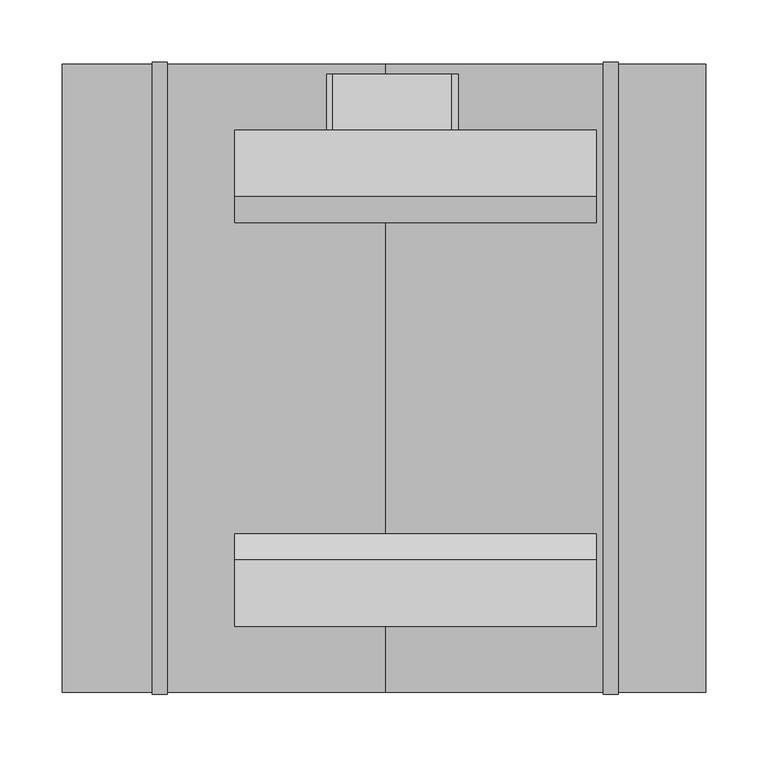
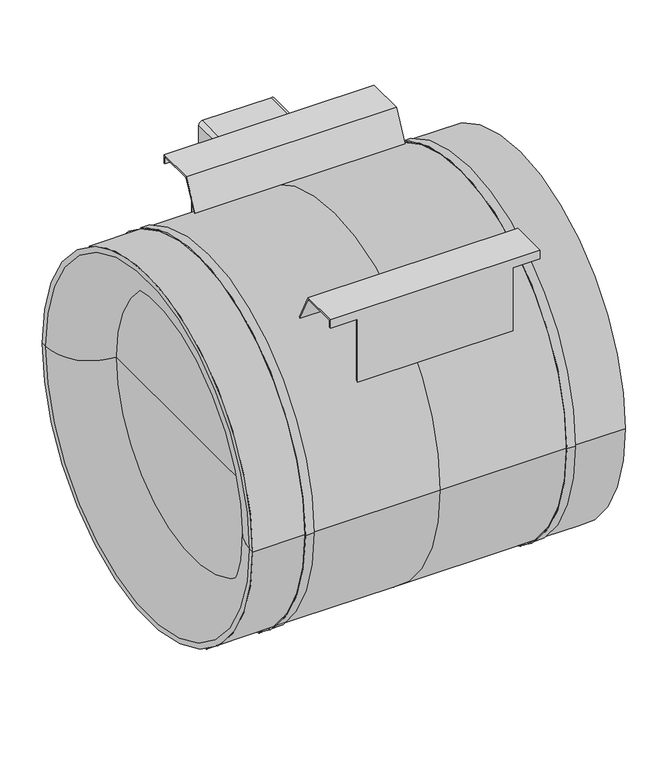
"""IFC4 building model written with IfcOpenShell, lengths in millimetres: unitary equipment geometry, VE-Wentylator-ParaForma-Harmann-JETTEC-Nawiewny : 500/6700S."""

from ifc_helpers import new_model, si_unit, point, frame, frame_2d, origin, place, context, project, spatial, polyline, circle_curve, ellipse_curve, trimmed, segment, composite_curve, outline, extrude, source, transform, mapped, element, save
from ifc_brep_helpers import plane_surface, cylinder_surface, revolved_surface, advanced_brep


def unitary_equipment_c92f0478(model_context):
    return source(origin(), model_context, "Body", "SolidModel", [
        extrude(outline(composite_curve([segment(trimmed(circle_curve(frame_2d((168.3, 53.4)), 5.0), [point((163.3, 53.4))], [point((168.3, 58.4))], False, "CARTESIAN"), True, "CONTINUOUS"), segment(polyline([(168.3, 58.4), (249.3, 58.4)]), True, "CONTINUOUS"), segment(trimmed(circle_curve(frame_2d((249.3, 53.4)), 5.0), [point((249.3, 58.4))], [point((254.3, 53.4))], False, "CARTESIAN"), True, "CONTINUOUS"), segment(polyline([(254.3, 53.4), (254.3, -42.0)]), True, "CONTINUOUS"), segment(trimmed(circle_curve(frame_2d((249.3, -42.0)), 5.0), [point((254.3, -42.0))], [point((249.3, -47.0))], False, "CARTESIAN"), True, "CONTINUOUS"), segment(polyline([(249.3, -47.0), (168.3, -47.0)]), True, "CONTINUOUS"), segment(trimmed(circle_curve(frame_2d((168.3, -42.0)), 5.0), [point((168.3, -47.0))], [point((163.3, -42.0))], False, "CARTESIAN"), True, "CONTINUOUS"), segment(polyline([(163.3, -42.0), (163.3, 53.4)]), True, "CONTINUOUS")], self_intersect=False)), frame((0.0, 198.9, 0.0), z_axis=(0.0, 1.0, 0.0), x_axis=(0.0, 0.0, 1.0)), (0.0, 0.0, 1.0), 45.0),
        advanced_brep(
        [(169.3, 198.9, 246.9), (169.3, 198.9, 258.9), (169.3, 145.6, 258.9), (169.3, 124.9125411, 218.6899165), (169.3, 126.647231, 217.6899202), (169.3, 146.8202037, 256.9), (169.3, 196.9, 256.9), (169.3, 196.9, 246.9), (131.8, 196.9, 246.9), (131.8, 198.9, 246.9), (-120.7, 196.9, 256.9), (-120.7, 196.9, 246.9), (-83.2, 196.9, 246.9), (-83.2, 196.9, 157.0312469), (131.8, 196.9, 157.0312469), (-120.7, 146.8202037, 256.9), (131.8, 126.647231, 217.6899202), (-83.2, 126.647231, 217.6899202), (-120.7, 126.647231, 217.6899202), (-120.7, 145.6, 258.9), (-120.7, 124.9125411, 218.6899165), (-83.2, 124.9125411, 218.6899165), (131.8, 124.9125411, 218.6899165), (-120.7, 198.9, 258.9), (131.8, 198.9, 154.4901696), (-83.2, 198.9, 154.4901696), (-83.2, 198.9, 246.9), (-120.7, 198.9, 246.9)],
        [
            (0, 1),
            (1, 2),
            (2, 3),
            (3, 4, circle_curve(frame((169.3, 0.0, 0.0), z_axis=(-1.0, 0.0, 0.0), x_axis=(0.0, 1.0, 0.0)), 251.85)),
            (4, 5),
            (5, 6),
            (6, 7),
            (7, 0),
            (7, 8),
            (8, 9),
            (9, 0),
            (6, 10),
            (10, 11),
            (11, 12),
            (12, 13),
            (13, 14),
            (14, 8),
            (5, 15),
            (15, 10),
            (4, 16),
            (16, 17),
            (17, 18),
            (18, 15),
            (19, 20),
            (20, 21),
            (21, 22),
            (22, 3),
            (2, 19),
            (1, 23),
            (23, 19),
            (9, 24),
            (24, 25),
            (25, 26),
            (26, 27),
            (27, 23),
            (20, 18, circle_curve(frame((-120.7, 0.0, 0.0), z_axis=(-1.0, 0.0, 0.0), x_axis=(0.0, 1.0, 0.0)), 251.85)),
            (17, 21, circle_curve(frame((-83.2, 0.0, 0.0), z_axis=(1.0, 0.0, 0.0), x_axis=(0.0, 1.0, 0.0)), 251.85)),
            (22, 16, circle_curve(frame((131.8, 0.0, 0.0), z_axis=(-1.0, 0.0, 0.0), x_axis=(0.0, 1.0, 0.0)), 251.85)),
            (25, 13, circle_curve(frame((-83.2, 0.0, 0.0), z_axis=(1.0, 0.0, 0.0), x_axis=(0.0, 1.0, 0.0)), 251.85)),
            (12, 26),
            (14, 24, circle_curve(frame((131.8, 0.0, 0.0), z_axis=(-1.0, 0.0, 0.0), x_axis=(0.0, 1.0, 0.0)), 251.85)),
            (27, 11),
        ],
        [
            plane_surface(frame((169.3, 0.0, 0.0), z_axis=(1.0, 0.0, 0.0), x_axis=(0.0, 0.0, 1.0))),
            plane_surface(frame((131.8, 198.9, 246.9), z_axis=(0.0, 0.0, -1.0), x_axis=(1.0, 0.0, 0.0))),
            plane_surface(frame((131.8, 196.9, 246.9), z_axis=(0.0, -1.0, 0.0), x_axis=(1.0, 0.0, 0.0))),
            plane_surface(frame((131.8, 196.9, 256.9), z_axis=(0.0, 0.0, -1.0), x_axis=(1.0, 0.0, 0.0))),
            plane_surface(frame((131.8, 146.8202037, 256.9), z_axis=(0.0, 0.8892159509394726, -0.45748769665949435), x_axis=(1.0, 0.0, 0.0))),
            plane_surface(frame((131.8, 12.4, 0.0), z_axis=(0.0, -0.8892159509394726, 0.4574876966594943), x_axis=(1.0, 0.0, 0.0))),
            plane_surface(frame((131.8, 145.6, 258.9), z_axis=(0.0, 0.0, 1.0), x_axis=(1.0, 0.0, 0.0))),
            plane_surface(frame((131.8, 198.9, 258.9), z_axis=(0.0, 1.0, 0.0), x_axis=(1.0, 0.0, 0.0))),
            revolved_surface(polyline([(-120.7, 251.85, 0.0), (-83.2, 251.85, 0.0)]), (-120.7, 0.0, 0.0), (-1.0, 0.0, 0.0)),
            revolved_surface(polyline([(131.8, 251.85, 0.0), (169.3, 251.85, 0.0)]), (131.8, 0.0, 0.0), (-1.0, 0.0, 0.0)),
            plane_surface(frame((-83.2, 0.0, 0.0), z_axis=(-1.0, 0.0, 0.0), x_axis=(0.0, 0.0, 1.0))),
            plane_surface(frame((131.8, 0.0, 0.0), z_axis=(1.0, 0.0, 0.0), x_axis=(0.0, 0.0, 1.0))),
            revolved_surface(polyline([(-83.2, 251.85, 0.0), (131.8, 251.85, 0.0)]), (-83.2, 0.0, 0.0), (-1.0, 0.0, 0.0)),
            plane_surface(frame((-120.7, 0.0, 0.0), z_axis=(-1.0, 0.0, 0.0), x_axis=(0.0, 0.0, 1.0))),
            plane_surface(frame((-120.7, 198.9, 246.9), z_axis=(0.0, 0.0, -1.0), x_axis=(1.0, 0.0, 0.0))),
        ],
        [
            (0, [[1, 2, 3, 4, 5, 6, 7, 8]]),
            (1, [[-8, 9, 10, 11]]),
            (2, [[-7, 12, 13, 14, 15, 16, 17, -9]]),
            (3, [[-12, -6, 18, 19]]),
            (4, [[-18, -5, 20, 21, 22, 23]]),
            (5, [[24, 25, 26, 27, -3, 28]]),
            (6, [[-28, -2, 29, 30]]),
            (7, [[-29, -1, -11, 31, 32, 33, 34, 35]]),
            (8, [[36, -22, 37, -25]]),
            (9, [[-4, -27, 38, -20]]),
            (10, [[39, -15, 40, -33]]),
            (11, [[41, -31, -10, -17]]),
            (12, [[-21, -38, -26, -37]]),
            (12, [[-39, -32, -41, -16]]),
            (13, [[42, -13, -19, -23, -36, -24, -30, -35]]),
            (14, [[-42, -34, -40, -14]]),
        ],
    ),
        advanced_brep(
        [(169.3, -145.6, 258.9), (169.3, -198.9, 258.9), (169.3, -198.9, 246.9), (169.3, -196.9, 246.9), (169.3, -196.9, 256.9), (169.3, -146.8202037, 256.9), (169.3, -126.647231, 217.6899202), (169.3, -124.9125411, 218.6899165), (-120.7, -146.8202037, 256.9), (-120.7, -126.647231, 217.6899202), (-83.2, -126.647231, 217.6899202), (131.8, -126.647231, 217.6899202), (-120.7, -196.9, 256.9), (131.8, -196.9, 246.9), (131.8, -196.9, 157.0312469), (-83.2, -196.9, 157.0312469), (-83.2, -196.9, 246.9), (-120.7, -196.9, 246.9), (131.8, -198.9, 246.9), (-120.7, -198.9, 258.9), (-120.7, -198.9, 246.9), (-83.2, -198.9, 246.9), (-83.2, -198.9, 154.4901696), (131.8, -198.9, 154.4901696), (-120.7, -145.6, 258.9), (131.8, -124.9125411, 218.6899165), (-83.2, -124.9125411, 218.6899165), (-120.7, -124.9125411, 218.6899165)],
        [
            (0, 1),
            (1, 2),
            (2, 3),
            (3, 4),
            (4, 5),
            (5, 6),
            (6, 7, circle_curve(frame((169.3, 0.0, 0.0), z_axis=(-1.0, 0.0, 0.0), x_axis=(0.0, 1.0, 0.0)), 251.85)),
            (7, 0),
            (8, 9),
            (9, 10),
            (10, 11),
            (11, 6),
            (5, 8),
            (4, 12),
            (12, 8),
            (3, 13),
            (13, 14),
            (14, 15),
            (15, 16),
            (16, 17),
            (17, 12),
            (2, 18),
            (18, 13),
            (1, 19),
            (19, 20),
            (20, 21),
            (21, 22),
            (22, 23),
            (23, 18),
            (0, 24),
            (24, 19),
            (7, 25),
            (25, 26),
            (26, 27),
            (27, 24),
            (9, 27, circle_curve(frame((-120.7, 0.0, 0.0), z_axis=(-1.0, 0.0, 0.0), x_axis=(0.0, 1.0, 0.0)), 251.85)),
            (26, 10, circle_curve(frame((-83.2, 0.0, 0.0), z_axis=(1.0, 0.0, 0.0), x_axis=(0.0, 1.0, 0.0)), 251.85)),
            (11, 25, circle_curve(frame((131.8, 0.0, 0.0), z_axis=(-1.0, 0.0, 0.0), x_axis=(0.0, 1.0, 0.0)), 251.85)),
            (15, 22, circle_curve(frame((-83.2, 0.0, 0.0), z_axis=(1.0, 0.0, 0.0), x_axis=(0.0, 1.0, 0.0)), 251.85)),
            (21, 16),
            (23, 14, circle_curve(frame((131.8, 0.0, 0.0), z_axis=(-1.0, 0.0, 0.0), x_axis=(0.0, 1.0, 0.0)), 251.85)),
            (17, 20),
        ],
        [
            plane_surface(frame((169.3, 0.0, 0.0), z_axis=(1.0, 0.0, 0.0), x_axis=(0.0, 0.0, 1.0))),
            plane_surface(frame((131.8, -13.6202037, -2.0), z_axis=(0.0, -0.8892159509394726, -0.45748769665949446), x_axis=(1.0, 0.0, 0.0))),
            plane_surface(frame((131.8, -146.8202037, 256.9), z_axis=(0.0, 0.0, -1.0), x_axis=(1.0, 0.0, 0.0))),
            plane_surface(frame((131.8, -196.9, 256.9), z_axis=(0.0, 1.0, 0.0), x_axis=(1.0, 0.0, 0.0))),
            plane_surface(frame((131.8, -196.9, 246.9), z_axis=(0.0, 0.0, -1.0), x_axis=(1.0, 0.0, 0.0))),
            plane_surface(frame((131.8, -198.9, 246.9), z_axis=(0.0, -1.0, 0.0), x_axis=(1.0, 0.0, 0.0))),
            plane_surface(frame((131.8, -198.9, 258.9), z_axis=(0.0, 0.0, 1.0), x_axis=(1.0, 0.0, 0.0))),
            plane_surface(frame((131.8, -145.6, 258.9), z_axis=(0.0, 0.8892159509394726, 0.45748769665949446), x_axis=(1.0, 0.0, 0.0))),
            revolved_surface(polyline([(-120.7, 251.85, 0.0), (-83.2, 251.85, 0.0)]), (-120.7, 0.0, 0.0), (-1.0, 0.0, 0.0)),
            revolved_surface(polyline([(131.8, 251.85, 0.0), (169.3, 251.85, 0.0)]), (131.8, 0.0, 0.0), (-1.0, 0.0, 0.0)),
            plane_surface(frame((-83.2, 0.0, 0.0), z_axis=(-1.0, 0.0, 0.0), x_axis=(0.0, 0.0, 1.0))),
            plane_surface(frame((131.8, 0.0, 0.0), z_axis=(1.0, 0.0, 0.0), x_axis=(0.0, 0.0, 1.0))),
            revolved_surface(polyline([(-83.2, 251.85, 0.0), (131.8, 251.85, 0.0)]), (-83.2, 0.0, 0.0), (-1.0, 0.0, 0.0)),
            plane_surface(frame((-120.7, 0.0, 0.0), z_axis=(-1.0, 0.0, 0.0), x_axis=(0.0, 0.0, 1.0))),
            plane_surface(frame((-120.7, -196.9, 246.9), z_axis=(0.0, 0.0, -1.0), x_axis=(1.0, 0.0, 0.0))),
        ],
        [
            (0, [[1, 2, 3, 4, 5, 6, 7, 8]]),
            (1, [[9, 10, 11, 12, -6, 13]]),
            (2, [[-13, -5, 14, 15]]),
            (3, [[-14, -4, 16, 17, 18, 19, 20, 21]]),
            (4, [[-3, 22, 23, -16]]),
            (5, [[-2, 24, 25, 26, 27, 28, 29, -22]]),
            (6, [[-24, -1, 30, 31]]),
            (7, [[-30, -8, 32, 33, 34, 35]]),
            (8, [[36, -34, 37, -10]]),
            (9, [[-7, -12, 38, -32]]),
            (10, [[39, -27, 40, -19]]),
            (11, [[41, -17, -23, -29]]),
            (12, [[-11, -37, -33, -38]]),
            (12, [[-39, -18, -41, -28]]),
            (13, [[-15, -21, 42, -25, -31, -35, -36, -9]]),
            (14, [[-42, -20, -40, -26]]),
        ],
    ),
        advanced_brep(
        [(-174.8, 251.9, 0.0), (0.0, 251.9, 0.0), (0.0, -251.9, 0.0), (-174.8, -251.9, 0.0), (-258.8, -251.9, 0.0), (-258.8, 251.9, 0.0), (-186.8, 251.9, 0.0), (-186.8, -251.9, 0.0), (-258.8, -244.5, 0.0), (-258.8, 244.5, 0.0), (-196.8, -182.5, 0.0), (-196.8, 182.5, 0.0), (-196.8, 0.0, 0.0), (256.8, -251.9, 0.0), (256.8, 251.9, 0.0), (256.8, 0.0, 0.0), (186.8, -251.9, 0.0), (186.8, 251.9, 0.0), (174.8, 251.9, 0.0), (174.8, -251.9, 0.0), (-174.8, -253.4, 0.0), (-174.8, 253.4, 0.0), (-186.8, -253.4, 0.0), (-186.8, 253.4, 0.0), (186.8, -253.4, 0.0), (186.8, 253.4, 0.0), (174.8, -253.4, 0.0), (174.8, 253.4, 0.0)],
        [
            (0, 1),
            (1, 2, circle_curve(frame((0.0, 0.0, 0.0), z_axis=(-1.0, 0.0, 0.0), x_axis=(0.0, 1.0, 0.0)), 251.9)),
            (2, 3),
            (3, 0, circle_curve(frame((-174.8, 0.0, 0.0), z_axis=(1.0, 0.0, 0.0), x_axis=(0.0, 1.0, 0.0)), 251.9)),
            (0, 3, circle_curve(frame((-174.8, 0.0, 0.0), z_axis=(1.0, 0.0, 0.0), x_axis=(0.0, 1.0, 0.0)), 251.9)),
            (2, 1, circle_curve(frame((0.0, 0.0, 0.0), z_axis=(-1.0, 0.0, 0.0), x_axis=(0.0, 1.0, 0.0)), 251.9)),
            (4, 5, circle_curve(frame((-258.8, 0.0, 0.0), z_axis=(1.0, 0.0, 0.0), x_axis=(0.0, 1.0, 0.0)), 251.9)),
            (5, 6),
            (6, 7, circle_curve(frame((-186.8, 0.0, 0.0), z_axis=(-1.0, 0.0, 0.0), x_axis=(0.0, 1.0, 0.0)), 251.9)),
            (7, 4),
            (5, 4, circle_curve(frame((-258.8, 0.0, 0.0), z_axis=(1.0, 0.0, 0.0), x_axis=(0.0, 1.0, 0.0)), 251.9)),
            (7, 6, circle_curve(frame((-186.8, 0.0, 0.0), z_axis=(-1.0, 0.0, 0.0), x_axis=(0.0, 1.0, 0.0)), 251.9)),
            (4, 8),
            (8, 9, circle_curve(frame((-258.8, 0.0, 0.0), z_axis=(1.0, 0.0, 0.0), x_axis=(0.0, 1.0, 0.0)), 244.5)),
            (9, 5),
            (9, 8, circle_curve(frame((-258.8, 0.0, 0.0), z_axis=(1.0, 0.0, 0.0), x_axis=(0.0, 1.0, 0.0)), 244.5)),
            (8, 10, circle_curve(frame((-196.8, -244.5, 0.0), z_axis=(0.0, 0.0, -1.0), x_axis=(1.0, 0.0, 0.0)), 62.0)),
            (10, 11, circle_curve(frame((-196.8, 0.0, 0.0), z_axis=(1.0, 0.0, 0.0), x_axis=(0.0, 1.0, 0.0)), 182.5)),
            (11, 9, circle_curve(frame((-196.8, 244.5, 0.0), z_axis=(0.0, 0.0, -1.0), x_axis=(1.0, 0.0, 0.0)), 62.0)),
            (11, 10, circle_curve(frame((-196.8, 0.0, 0.0), z_axis=(1.0, 0.0, 0.0), x_axis=(0.0, 1.0, 0.0)), 182.5)),
            (10, 12),
            (12, 11),
            (13, 14, circle_curve(frame((256.8, 0.0, 0.0), z_axis=(1.0, 0.0, 0.0), x_axis=(0.0, 1.0, 0.0)), 251.9)),
            (14, 15),
            (15, 13),
            (14, 13, circle_curve(frame((256.8, 0.0, 0.0), z_axis=(1.0, 0.0, 0.0), x_axis=(0.0, 1.0, 0.0)), 251.9)),
            (13, 16),
            (16, 17, circle_curve(frame((186.8, 0.0, 0.0), z_axis=(1.0, 0.0, 0.0), x_axis=(0.0, 1.0, 0.0)), 251.9)),
            (17, 14),
            (17, 16, circle_curve(frame((186.8, 0.0, 0.0), z_axis=(1.0, 0.0, 0.0), x_axis=(0.0, 1.0, 0.0)), 251.9)),
            (1, 18),
            (18, 19, circle_curve(frame((174.8, 0.0, 0.0), z_axis=(-1.0, 0.0, 0.0), x_axis=(0.0, 1.0, 0.0)), 251.9)),
            (19, 2),
            (19, 18, circle_curve(frame((174.8, 0.0, 0.0), z_axis=(-1.0, 0.0, 0.0), x_axis=(0.0, 1.0, 0.0)), 251.9)),
            (20, 21, circle_curve(frame((-174.8, 0.0, 0.0), z_axis=(1.0, 0.0, 0.0), x_axis=(0.0, 1.0, 0.0)), 253.4)),
            (21, 0),
            (3, 20),
            (21, 20, circle_curve(frame((-174.8, 0.0, 0.0), z_axis=(1.0, 0.0, 0.0), x_axis=(0.0, 1.0, 0.0)), 253.4)),
            (20, 22),
            (22, 23, circle_curve(frame((-186.8, 0.0, 0.0), z_axis=(1.0, 0.0, 0.0), x_axis=(0.0, 1.0, 0.0)), 253.4)),
            (23, 21),
            (23, 22, circle_curve(frame((-186.8, 0.0, 0.0), z_axis=(1.0, 0.0, 0.0), x_axis=(0.0, 1.0, 0.0)), 253.4)),
            (22, 7),
            (6, 23),
            (24, 25, circle_curve(frame((186.8, 0.0, 0.0), z_axis=(1.0, 0.0, 0.0), x_axis=(0.0, 1.0, 0.0)), 253.4)),
            (25, 17),
            (16, 24),
            (25, 24, circle_curve(frame((186.8, 0.0, 0.0), z_axis=(1.0, 0.0, 0.0), x_axis=(0.0, 1.0, 0.0)), 253.4)),
            (24, 26),
            (26, 27, circle_curve(frame((174.8, 0.0, 0.0), z_axis=(1.0, 0.0, 0.0), x_axis=(0.0, 1.0, 0.0)), 253.4)),
            (27, 25),
            (27, 26, circle_curve(frame((174.8, 0.0, 0.0), z_axis=(1.0, 0.0, 0.0), x_axis=(0.0, 1.0, 0.0)), 253.4)),
            (26, 19),
            (18, 27),
        ],
        [
            cylinder_surface(frame((-196.8, 0.0, 0.0), z_axis=(-1.0, 0.0, 0.0), x_axis=(0.0, 1.0, 0.0)), 251.9),
            plane_surface(frame((-258.8, 0.0, 0.0), z_axis=(-1.0, 0.0, 0.0), x_axis=(0.0, 1.0, 0.0))),
            revolved_surface(trimmed(ellipse_curve(frame((-196.8, 244.5, 0.0), z_axis=(0.0, 0.0, 1.0), x_axis=(1.0, 0.0, 0.0)), 62.0, 62.0), [point((-258.8, 244.5, 0.0))], [point((-196.8, 182.5, 0.0))], True, "CARTESIAN"), (-196.8, 0.0, 0.0), (-1.0, 0.0, 0.0)),
            plane_surface(frame((-196.8, 0.0, 0.0), z_axis=(-1.0, 0.0, 0.0), x_axis=(0.0, 1.0, 0.0))),
            plane_surface(frame((256.8, 0.0, 0.0), z_axis=(1.0, 0.0, 0.0), x_axis=(0.0, 1.0, 0.0))),
            cylinder_surface(frame((0.0, 0.0, 0.0), z_axis=(-1.0, 0.0, 0.0), x_axis=(0.0, 1.0, 0.0)), 251.9),
            plane_surface(frame((-174.8, 0.0, 0.0), z_axis=(1.0, 0.0, 0.0), x_axis=(0.0, 1.0, 0.0))),
            cylinder_surface(frame((-186.8, 0.0, 0.0), z_axis=(-1.0, 0.0, 0.0), x_axis=(0.0, 1.0, 0.0)), 253.4),
            plane_surface(frame((-186.8, 0.0, 0.0), z_axis=(-1.0, 0.0, 0.0), x_axis=(0.0, 1.0, 0.0))),
            plane_surface(frame((186.8, 0.0, 0.0), z_axis=(1.0, 0.0, 0.0), x_axis=(0.0, 1.0, 0.0))),
            plane_surface(frame((174.8, 0.0, 0.0), z_axis=(-1.0, 0.0, 0.0), x_axis=(0.0, 1.0, 0.0))),
        ],
        [
            (0, [[1, 2, 3, 4]]),
            (0, [[-1, 5, -3, 6]]),
            (0, [[7, 8, 9, 10]]),
            (0, [[-8, 11, -10, 12]]),
            (1, [[-7, 13, 14, 15]]),
            (1, [[-11, -15, 16, -13]]),
            (2, [[-14, 17, 18, 19]]),
            (2, [[-16, -19, 20, -17]]),
            (3, [[-18, 21, 22]]),
            (3, [[-20, -22, -21]]),
            (4, [[23, 24, 25]]),
            (4, [[-24, 26, -25]]),
            (5, [[-23, 27, 28, 29]]),
            (5, [[-26, -29, 30, -27]]),
            (5, [[31, 32, 33, -2]]),
            (5, [[-31, -6, -33, 34]]),
            (6, [[35, 36, -4, 37]]),
            (6, [[38, -37, -5, -36]]),
            (7, [[-35, 39, 40, 41]]),
            (7, [[-38, -41, 42, -39]]),
            (8, [[-40, 43, -9, 44]]),
            (8, [[-42, -44, -12, -43]]),
            (9, [[45, 46, -28, 47]]),
            (9, [[48, -47, -30, -46]]),
            (7, [[-45, 49, 50, 51]]),
            (7, [[-48, -51, 52, -49]]),
            (10, [[-50, 53, -32, 54]]),
            (10, [[-52, -54, -34, -53]]),
        ],
    ),
    ])


if __name__ == "__main__":
    model = new_model("IFC4")
    model_context = context("Model", 3, world=origin())
    ifc_project = project(units=[si_unit("LENGTHUNIT", "METRE", prefix="MILLI")], contexts=[model_context])
    site = spatial("IfcSite", under=ifc_project)
    building = spatial("IfcBuilding", under=site)
    placement = place(None, origin())
    unitary_equipment_shape = unitary_equipment_c92f0478(model_context)
    element("IfcUnitaryEquipment", 1, ObjectType="VE-Wentylator-ParaForma-Harmann-JETTEC-Nawiewny : 500/6700S", at=placement, inside=building, context=model_context, shape_type="MappedRepresentation", body=[
        mapped(unitary_equipment_shape, transform((0.0, 0.0, 0.0), x_axis=(1.0, 0.0, 0.0), y_axis=(0.0, 1.0, 0.0), z_axis=(0.0, 0.0, 1.0))),
    ])
    save(model, "model.ifc")
